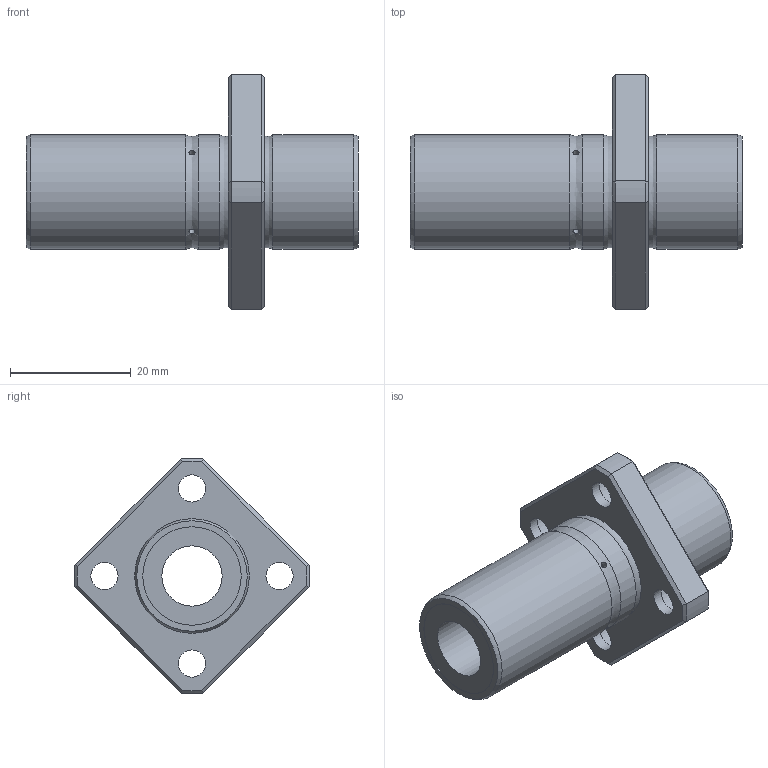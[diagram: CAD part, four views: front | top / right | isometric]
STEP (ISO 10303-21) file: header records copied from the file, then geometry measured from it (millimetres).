
FILE_DESCRIPTION((''),'2;1');
FILE_NAME('D:\製品 (図面)\カタログ用3D\リニアベアリング関連\STEP形式\LFDK-OH\LFDK10-OH.stp','2010-06-03T09:40:18',('Tsuchiya'),(''),'Autodesk Inventor 10','Autodesk Inventor 10','');
FILE_SCHEMA(('AUTOMOTIVE_DESIGN { 1 0 10303 214 1 1 1 1 }'));
Length unit declared in the file: millimetre
Products named in the file (1): LFDK10-OH
Bounding box: 55 x 38.98 x 38.98 mm (x, y, z)
Volume: 13794.4 mm3; surface area: 7308.3 mm2
Topology: 1 solids, 1 shells, 61 faces, 123 edges, 76 vertices
Faces by surface type: bspline 19, plane 18, cylinder 14, cone 8, torus 2
Full cylindrical faces by diameter (mm): 10 x1, 16.3 x2, 19 x3
Entity records: 2117 total; most frequent: CARTESIAN_POINT 994, DIRECTION 206, ORIENTED_EDGE 192, EDGE_LOOP 106, EDGE_CURVE 96, AXIS2_PLACEMENT_3D 91, VERTEX_POINT 72, FACE_OUTER_BOUND 61
